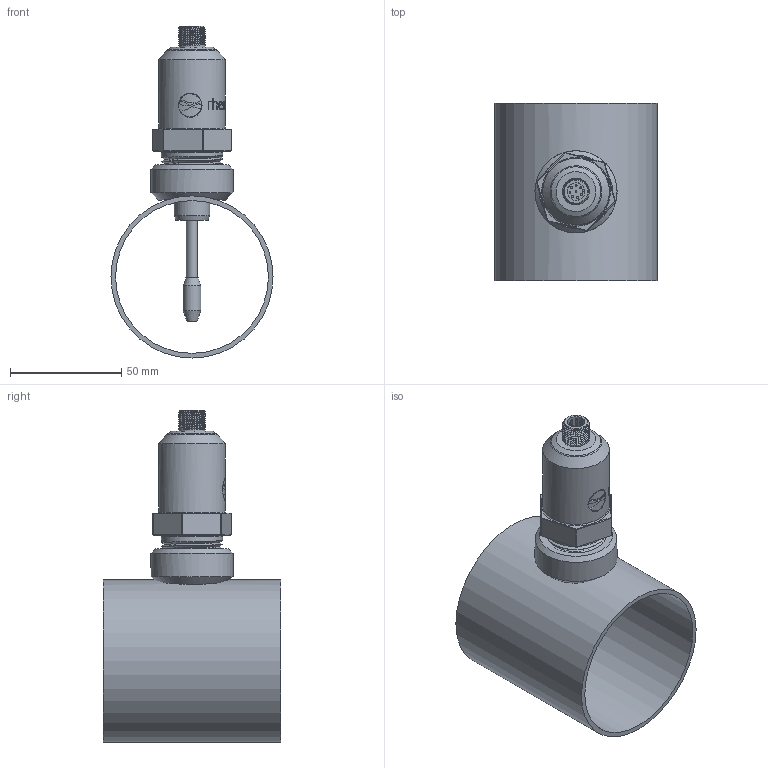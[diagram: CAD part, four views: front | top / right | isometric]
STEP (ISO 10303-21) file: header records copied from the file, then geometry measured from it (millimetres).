
FILE_DESCRIPTION(/* description */ ('Unknown'),/* implementation_level */ '2;1');
FILE_NAME(/* name */ 'WOL-34NL_SRV_Pipeline',/* time_stamp */ '2023-02-08T11:00:14-05:00',/* author */ ('Unknown'),/* organization */ ('Unknown'),/* preprocessor_version */ 'ST-DEVELOPER v16.7',/* originating_system */ 'Solid Edge',/* authorisation */ 'Unknown');
FILE_SCHEMA (('AUTOMOTIVE_DESIGN {1 0 10303 214 3 1 1}'));
Length unit declared in the file: millimetre
Products named in the file (4): WOL-34NL_SRV; P3_A; P1_A; P4_A
Assembly tree (3 placements, depth 2):
  WOL-34NL_SRV
    P3_A
    P1_A
    P4_A
Bounding box: 73 x 80 x 149.52 mm (x, y, z)
Volume: 45001.5 mm3; surface area: 50610.7 mm2
Topology: 2 solids, 3 shells, 243 faces, 608 edges, 382 vertices
Faces by surface type: bspline 86, plane 82, cylinder 43, cone 21, sphere 8, torus 3
Full cylindrical faces by diameter (mm): 0.8 x8, 5 x1, 8 x2, 12 x7, 16 x1, 24 x1, 30 x1, 37 x1, 68.78 x1, 73 x1
Entity records: 18769 total; most frequent: CARTESIAN_POINT 12742, ORIENTED_EDGE 970, DIRECTION 651, EDGE_CURVE 485, VERTEX_POINT 326, EDGE_LOOP 295, FACE_BOUND 295, ADVANCED_FACE 227
